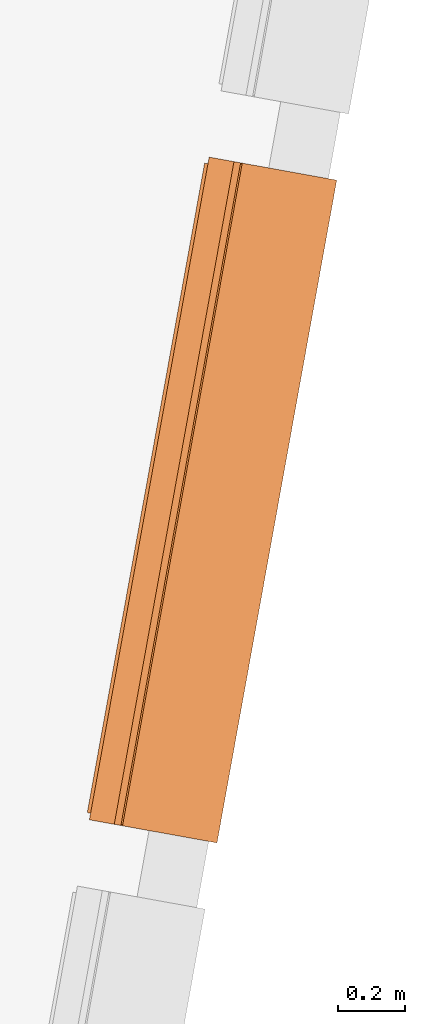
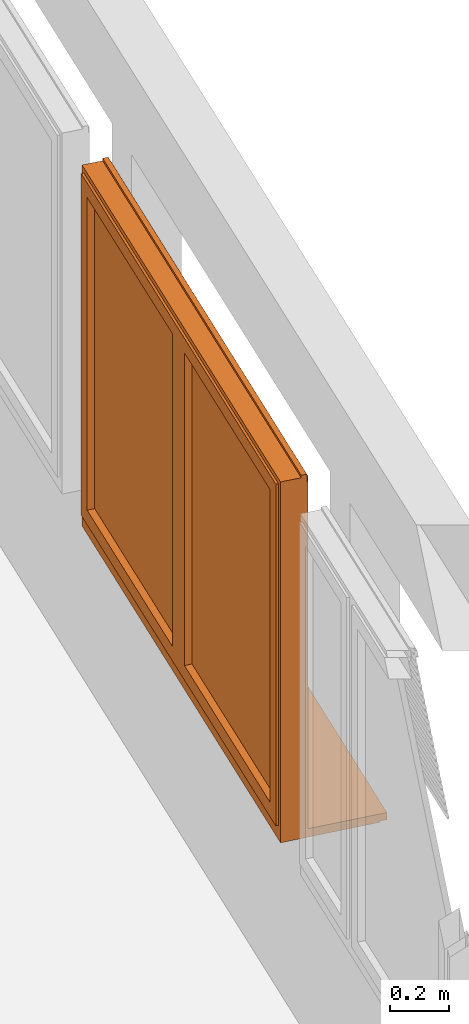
# One storey, part 38 of 52: 1 proxy.
"""IFC2X3 building model written with IfcOpenShell, lengths in metres."""

from ifc_helpers import new_model, entity, si_unit, converted_unit, derived_unit, money_unit, direction, frame, origin_with_axes, place, context, subcontext, project, spatial, open_shell, faceted_brep, surface_model, material, type_object, element, save


model = new_model("IFC2X3")

# Units and contexts
model_context = context("Model", 3, precision=1e-05, world=origin_with_axes(), true_north=direction((0.0, 1.0)))
body_context = subcontext(model_context, "Body", "Model", "MODEL_VIEW")
ifc_project = project(units=[si_unit("LENGTHUNIT", "METRE"), si_unit("AREAUNIT", "SQUARE_METRE"), si_unit("VOLUMEUNIT", "CUBIC_METRE"), converted_unit("PLANEANGLEUNIT", "DEGREE", entity("IfcPlaneAngleMeasure", 0.0174532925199), si_unit("PLANEANGLEUNIT", "RADIAN"), dimensions=[0, 0, 0, 0, 0, 0, 0]), money_unit("CHF"), converted_unit("TIMEUNIT", "Year", entity("IfcTimeMeasure", 31556926.0), si_unit("TIMEUNIT", "SECOND"), dimensions=[0, 0, 1, 0, 0, 0, 0]), si_unit("MASSUNIT", "GRAM", prefix="KILO"), si_unit("THERMODYNAMICTEMPERATUREUNIT", "DEGREE_CELSIUS"), si_unit("LUMINOUSINTENSITYUNIT", "LUMEN"), si_unit("ENERGYUNIT", "JOULE", prefix="MEGA"), derived_unit("THERMALCONDUCTANCEUNIT", [(si_unit("POWERUNIT", "WATT"), 1), (si_unit("LENGTHUNIT", "METRE"), -1), (si_unit("THERMODYNAMICTEMPERATUREUNIT", "KELVIN"), -1)]), derived_unit("SPECIFICHEATCAPACITYUNIT", [(si_unit("ENERGYUNIT", "JOULE"), 1), (si_unit("MASSUNIT", "GRAM", prefix="KILO"), -1), (si_unit("THERMODYNAMICTEMPERATUREUNIT", "KELVIN"), -1)]), derived_unit("MASSDENSITYUNIT", [(si_unit("MASSUNIT", "GRAM", prefix="KILO"), 1), (si_unit("VOLUMEUNIT", "CUBIC_METRE"), -1)])], contexts=[model_context])

# Site, building, storey
site_placement = place(None, frame((0.0, 0.0, 0.0), z_axis=(0.0, 0.0, 1.0), x_axis=(-0.177771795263, -0.984071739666, 0.0)))
site = spatial("IfcSite", under=ifc_project, at=site_placement, Name="Site", CompositionType="ELEMENT")
building_placement = place(site_placement, origin_with_axes())
building = spatial("IfcBuilding", under=site, at=building_placement, Name="Bâtiment", CompositionType="ELEMENT")
storey_placement = place(building_placement, frame((0.0, 0.0, 3.2), z_axis=(0.0, 0.0, 1.0), x_axis=(1.0, 0.0, 0.0)))
storey = spatial("IfcBuildingStorey", under=building, at=storey_placement, Name="R+1", CompositionType="ELEMENT", Elevation=3.2)

# Proxy
ifc_material = material(Name="Matériau de construction IFC")
building_element_proxy_type = type_object("IfcBuildingElementProxyType", Name="Fenêtre double 21", PredefinedType="NOTDEFINED")
proxy_placement = place(storey_placement, frame((153.119841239, -148.117150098, 1.0), z_axis=(0.0, 0.0, 1.0), x_axis=(-1.0, 0.0, 0.0)))
element("IfcBuildingElementProxy", 1, at=proxy_placement, inside=storey, type_object=building_element_proxy_type, material=ifc_material, Name="Fen classe-200", context=body_context, shape_type="SurfaceModel", body=[
    faceted_brep([(2.0, 0.285, 0.005), (2.0, 0.285, 0.035), (2.0, 0.0, 0.035), (2.0, 0.0, 0.005), (0.0, 0.285, 0.005), (0.0, 0.285, 0.035), (0.0, 0.0, 0.035), (0.0, -0.025, 0.035), (2.0, -0.025, 0.035), (2.0, -0.025, 0.005), (0.0, -0.025, 0.005), (0.0, 0.0, 0.005)], [[[0, 1, 2, 3]], [[4, 5, 1, 0]], [[1, 5, 6, 7, 8, 2]], [[3, 2, 8, 9]], [[0, 3, 9, 10, 11, 4]], [[11, 6, 5, 4]], [[10, 7, 6, 11]], [[9, 8, 7, 10]]]),
    faceted_brep([(2.0, 0.285, 0.0), (2.0, 0.285, 0.005), (2.0, 0.0, 0.005), (2.0, 0.0, 0.0), (0.0, 0.285, 0.0), (0.0, 0.285, 0.005), (0.0, 0.0, 0.005), (0.0, 0.0, 0.0)], [[[0, 1, 2, 3]], [[4, 5, 1, 0]], [[1, 5, 6, 2]], [[3, 2, 6, 7]], [[0, 3, 7, 4]], [[7, 6, 5, 4]]]),
    faceted_brep([(2.0, 0.285, 1.48), (2.0, 0.265, 1.48), (1.997, 0.265, 1.48), (1.997, 0.285, 1.48), (2.0, 0.285, 1.51), (2.0, 0.265, 1.51), (1.997, 0.265, 1.51), (1.997, 0.285, 1.51)], [[[0, 1, 2, 3]], [[0, 4, 5, 1]], [[1, 5, 6, 2]], [[3, 2, 6, 7]], [[4, 0, 3, 7]], [[5, 4, 7, 6]]]),
    faceted_brep([(0.00299999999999, 0.285, 1.48), (0.00299999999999, 0.265, 1.48), (0.0, 0.265, 1.48), (0.0, 0.285, 1.48), (0.00299999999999, 0.285, 1.51), (0.00299999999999, 0.265, 1.51), (0.0, 0.265, 1.51), (0.0, 0.285, 1.51)], [[[0, 1, 2, 3]], [[0, 4, 5, 1]], [[1, 5, 6, 2]], [[3, 2, 6, 7]], [[4, 0, 3, 7]], [[5, 4, 7, 6]]]),
    faceted_brep([(1.997, 0.285, 1.48), (1.997, 0.282, 1.48), (0.00299999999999, 0.282, 1.48), (0.00299999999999, 0.285, 1.48), (1.997, 0.285, 1.51), (1.997, 0.265, 1.51), (1.997, 0.265, 1.48), (1.997, 0.268, 1.48), (1.997, 0.268, 1.5), (1.997, 0.26, 1.5), (1.997, 0.26, 1.48), (1.997, 0.263, 1.48), (1.997, 0.263, 1.503), (1.997, 0.268, 1.503), (1.997, 0.268, 1.507), (1.997, 0.282, 1.507), (1.997, 0.282, 1.5), (0.00299999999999, 0.282, 1.5), (0.00299999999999, 0.282, 1.507), (0.00299999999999, 0.268, 1.507), (0.00299999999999, 0.268, 1.503), (0.00299999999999, 0.263, 1.503), (0.00299999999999, 0.263, 1.48), (0.00299999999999, 0.26, 1.48), (0.00299999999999, 0.26, 1.5), (0.00299999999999, 0.268, 1.5), (0.00299999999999, 0.268, 1.48), (0.00299999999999, 0.265, 1.48), (0.00299999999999, 0.265, 1.51), (0.00299999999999, 0.285, 1.51)], [[[0, 1, 2, 3]], [[0, 4, 5, 6, 7, 8, 9, 10, 11, 12, 13, 14, 15, 16, 1]], [[1, 16, 17, 2]], [[3, 2, 17, 18, 19, 20, 21, 22, 23, 24, 25, 26, 27, 28, 29]], [[4, 0, 3, 29]], [[5, 4, 29, 28]], [[6, 5, 28, 27]], [[7, 6, 27, 26]], [[8, 7, 26, 25]], [[9, 8, 25, 24]], [[10, 9, 24, 23]], [[11, 10, 23, 22]], [[12, 11, 22, 21]], [[13, 12, 21, 20]], [[14, 13, 20, 19]], [[15, 14, 19, 18]], [[16, 15, 18, 17]]]),
    faceted_brep([(0.0, 0.285, 0.03), (0.0, 0.26, 0.03), (0.0, 0.26, 1.48), (0.0, 0.285, 1.48), (0.025, 0.285, 0.03), (0.025, 0.282, 0.03), (0.00299999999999, 0.282, 0.03), (0.00299999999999, 0.263, 0.03), (0.025, 0.263, 0.03), (0.025, 0.26, 0.03), (0.025, 0.26, 1.48), (0.025, 0.263, 1.48), (0.00299999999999, 0.263, 1.48), (0.00299999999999, 0.282, 1.48), (0.025, 0.282, 1.48), (0.025, 0.285, 1.48)], [[[0, 1, 2, 3]], [[0, 4, 5, 6, 7, 8, 9, 1]], [[1, 9, 10, 2]], [[3, 2, 10, 11, 12, 13, 14, 15]], [[4, 0, 3, 15]], [[5, 4, 15, 14]], [[6, 5, 14, 13]], [[7, 6, 13, 12]], [[8, 7, 12, 11]], [[9, 8, 11, 10]]]),
    faceted_brep([(2.0, 0.285, 0.03), (2.0, 0.285, 1.48), (2.0, 0.26, 1.48), (2.0, 0.26, 0.03), (1.975, 0.285, 0.03), (1.975, 0.285, 1.48), (1.975, 0.282, 1.48), (1.997, 0.282, 1.48), (1.997, 0.263, 1.48), (1.975, 0.263, 1.48), (1.975, 0.26, 1.48), (1.975, 0.26, 0.03), (1.975, 0.263, 0.03), (1.997, 0.263, 0.03), (1.997, 0.282, 0.03), (1.975, 0.282, 0.03)], [[[0, 1, 2, 3]], [[4, 5, 1, 0]], [[1, 5, 6, 7, 8, 9, 10, 2]], [[3, 2, 10, 11]], [[0, 3, 11, 12, 13, 14, 15, 4]], [[15, 6, 5, 4]], [[14, 7, 6, 15]], [[13, 8, 7, 14]], [[12, 9, 8, 13]], [[11, 10, 9, 12]]]),
    faceted_brep([(0.00299999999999, 0.27375, 1.505), (1.997, 0.27375, 1.505), (1.997, 0.273333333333, 1.50333333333), (0.00299999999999, 0.273333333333, 1.50333333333), (0.00299999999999, 0.26875, 1.505), (1.997, 0.26875, 1.505), (1.997, 0.268333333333, 1.50333333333), (1.997, 0.268333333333, 1.49666666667), (1.997, 0.27, 1.49), (1.997, 0.275, 1.49), (1.997, 0.273333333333, 1.49666666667), (0.00299999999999, 0.273333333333, 1.49666666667), (0.00299999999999, 0.275, 1.49), (0.00299999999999, 0.27, 1.49), (0.00299999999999, 0.268333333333, 1.49666666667), (0.00299999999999, 0.268333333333, 1.50333333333)], [[[0, 1, 2, 3]], [[1, 0, 4, 5]], [[1, 5, 6, 7, 8, 9, 10, 2]], [[2, 10, 11, 3]], [[4, 0, 3, 11, 12, 13, 14, 15]], [[6, 5, 4, 15]], [[7, 6, 15, 14]], [[8, 7, 14, 13]], [[9, 8, 13, 12]], [[10, 9, 12, 11]]]),
    faceted_brep([(1.997, 0.275, 1.49), (1.997, 0.273333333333, 1.48333333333), (0.00299999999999, 0.273333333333, 1.48333333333), (0.00299999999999, 0.275, 1.49), (1.997, 0.27, 1.49), (1.997, 0.268333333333, 1.48333333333), (1.997, 0.268333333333, 1.47666666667), (1.997, 0.27, 1.47), (1.997, 0.275, 1.47), (1.997, 0.273333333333, 1.47666666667), (0.00299999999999, 0.273333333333, 1.47666666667), (0.00299999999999, 0.275, 1.47), (0.00299999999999, 0.27, 1.47), (0.00299999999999, 0.268333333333, 1.47666666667), (0.00299999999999, 0.268333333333, 1.48333333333), (0.00299999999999, 0.27, 1.49)], [[[0, 1, 2, 3]], [[0, 4, 5, 6, 7, 8, 9, 1]], [[1, 9, 10, 2]], [[3, 2, 10, 11, 12, 13, 14, 15]], [[4, 0, 3, 15]], [[5, 4, 15, 14]], [[6, 5, 14, 13]], [[7, 6, 13, 12]], [[8, 7, 12, 11]], [[9, 8, 11, 10]]]),
    faceted_brep([(1.997, 0.275, 1.47), (1.997, 0.273333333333, 1.46333333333), (0.00299999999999, 0.273333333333, 1.46333333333), (0.00299999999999, 0.275, 1.47), (1.997, 0.27, 1.47), (1.997, 0.268333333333, 1.46333333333), (1.997, 0.268333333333, 1.45666666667), (1.997, 0.27, 1.45), (1.997, 0.275, 1.45), (1.997, 0.273333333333, 1.45666666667), (0.00299999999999, 0.273333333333, 1.45666666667), (0.00299999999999, 0.275, 1.45), (0.00299999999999, 0.27, 1.45), (0.00299999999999, 0.268333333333, 1.45666666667), (0.00299999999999, 0.268333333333, 1.46333333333), (0.00299999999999, 0.27, 1.47)], [[[0, 1, 2, 3]], [[0, 4, 5, 6, 7, 8, 9, 1]], [[1, 9, 10, 2]], [[3, 2, 10, 11, 12, 13, 14, 15]], [[4, 0, 3, 15]], [[5, 4, 15, 14]], [[6, 5, 14, 13]], [[7, 6, 13, 12]], [[8, 7, 12, 11]], [[9, 8, 11, 10]]]),
    faceted_brep([(1.997, 0.275, 1.45), (1.997, 0.273333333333, 1.44333333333), (0.00299999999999, 0.273333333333, 1.44333333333), (0.00299999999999, 0.275, 1.45), (1.997, 0.27, 1.45), (1.997, 0.268333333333, 1.44333333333), (1.997, 0.268333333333, 1.43666666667), (1.997, 0.27, 1.43), (1.997, 0.275, 1.43), (1.997, 0.273333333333, 1.43666666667), (0.00299999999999, 0.273333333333, 1.43666666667), (0.00299999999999, 0.275, 1.43), (0.00299999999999, 0.27, 1.43), (0.00299999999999, 0.268333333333, 1.43666666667), (0.00299999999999, 0.268333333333, 1.44333333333), (0.00299999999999, 0.27, 1.45)], [[[0, 1, 2, 3]], [[0, 4, 5, 6, 7, 8, 9, 1]], [[1, 9, 10, 2]], [[3, 2, 10, 11, 12, 13, 14, 15]], [[4, 0, 3, 15]], [[5, 4, 15, 14]], [[6, 5, 14, 13]], [[7, 6, 13, 12]], [[8, 7, 12, 11]], [[9, 8, 11, 10]]]),
    faceted_brep([(1.997, 0.275, 1.43), (1.997, 0.273333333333, 1.42333333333), (0.00299999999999, 0.273333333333, 1.42333333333), (0.00299999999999, 0.275, 1.43), (1.997, 0.27, 1.43), (1.997, 0.268333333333, 1.42333333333), (1.997, 0.268333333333, 1.41666666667), (1.997, 0.27, 1.41), (1.997, 0.275, 1.41), (1.997, 0.273333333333, 1.41666666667), (0.00299999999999, 0.273333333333, 1.41666666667), (0.00299999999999, 0.275, 1.41), (0.00299999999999, 0.27, 1.41), (0.00299999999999, 0.268333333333, 1.41666666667), (0.00299999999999, 0.268333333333, 1.42333333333), (0.00299999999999, 0.27, 1.43)], [[[0, 1, 2, 3]], [[0, 4, 5, 6, 7, 8, 9, 1]], [[1, 9, 10, 2]], [[3, 2, 10, 11, 12, 13, 14, 15]], [[4, 0, 3, 15]], [[5, 4, 15, 14]], [[6, 5, 14, 13]], [[7, 6, 13, 12]], [[8, 7, 12, 11]], [[9, 8, 11, 10]]]),
    faceted_brep([(1.997, 0.275, 1.41), (1.997, 0.273333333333, 1.40333333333), (0.00299999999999, 0.273333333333, 1.40333333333), (0.00299999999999, 0.275, 1.41), (1.997, 0.27, 1.41), (1.997, 0.268333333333, 1.40333333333), (1.997, 0.268333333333, 1.39666666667), (1.997, 0.27, 1.39), (1.997, 0.275, 1.39), (1.997, 0.273333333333, 1.39666666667), (0.00299999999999, 0.273333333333, 1.39666666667), (0.00299999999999, 0.275, 1.39), (0.00299999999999, 0.27, 1.39), (0.00299999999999, 0.268333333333, 1.39666666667), (0.00299999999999, 0.268333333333, 1.40333333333), (0.00299999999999, 0.27, 1.41)], [[[0, 1, 2, 3]], [[0, 4, 5, 6, 7, 8, 9, 1]], [[1, 9, 10, 2]], [[3, 2, 10, 11, 12, 13, 14, 15]], [[4, 0, 3, 15]], [[5, 4, 15, 14]], [[6, 5, 14, 13]], [[7, 6, 13, 12]], [[8, 7, 12, 11]], [[9, 8, 11, 10]]]),
    faceted_brep([(1.997, 0.275, 1.39), (1.997, 0.273333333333, 1.38333333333), (0.00299999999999, 0.273333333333, 1.38333333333), (0.00299999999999, 0.275, 1.39), (1.997, 0.27, 1.39), (1.997, 0.268333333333, 1.38333333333), (1.997, 0.268333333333, 1.37666666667), (1.997, 0.27, 1.37), (1.997, 0.275, 1.37), (1.997, 0.273333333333, 1.37666666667), (0.00299999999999, 0.273333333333, 1.37666666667), (0.00299999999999, 0.275, 1.37), (0.00299999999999, 0.27, 1.37), (0.00299999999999, 0.268333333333, 1.37666666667), (0.00299999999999, 0.268333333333, 1.38333333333), (0.00299999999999, 0.27, 1.39)], [[[0, 1, 2, 3]], [[0, 4, 5, 6, 7, 8, 9, 1]], [[1, 9, 10, 2]], [[3, 2, 10, 11, 12, 13, 14, 15]], [[4, 0, 3, 15]], [[5, 4, 15, 14]], [[6, 5, 14, 13]], [[7, 6, 13, 12]], [[8, 7, 12, 11]], [[9, 8, 11, 10]]]),
    faceted_brep([(1.997, 0.275, 1.37), (1.997, 0.273333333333, 1.36333333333), (0.00299999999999, 0.273333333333, 1.36333333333), (0.00299999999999, 0.275, 1.37), (1.997, 0.27, 1.37), (1.997, 0.268333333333, 1.36333333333), (1.997, 0.268333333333, 1.35666666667), (1.997, 0.27, 1.35), (1.997, 0.275, 1.35), (1.997, 0.273333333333, 1.35666666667), (0.00299999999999, 0.273333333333, 1.35666666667), (0.00299999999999, 0.275, 1.35), (0.00299999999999, 0.27, 1.35), (0.00299999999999, 0.268333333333, 1.35666666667), (0.00299999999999, 0.268333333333, 1.36333333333), (0.00299999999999, 0.27, 1.37)], [[[0, 1, 2, 3]], [[0, 4, 5, 6, 7, 8, 9, 1]], [[1, 9, 10, 2]], [[3, 2, 10, 11, 12, 13, 14, 15]], [[4, 0, 3, 15]], [[5, 4, 15, 14]], [[6, 5, 14, 13]], [[7, 6, 13, 12]], [[8, 7, 12, 11]], [[9, 8, 11, 10]]]),
    faceted_brep([(1.997, 0.275, 1.35), (1.997, 0.273333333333, 1.34333333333), (0.00299999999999, 0.273333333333, 1.34333333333), (0.00299999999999, 0.275, 1.35), (1.997, 0.27, 1.35), (1.997, 0.268333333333, 1.34333333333), (1.997, 0.268333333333, 1.33666666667), (1.997, 0.27, 1.33), (1.997, 0.275, 1.33), (1.997, 0.273333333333, 1.33666666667), (0.00299999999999, 0.273333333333, 1.33666666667), (0.00299999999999, 0.275, 1.33), (0.00299999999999, 0.27, 1.33), (0.00299999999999, 0.268333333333, 1.33666666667), (0.00299999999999, 0.268333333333, 1.34333333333), (0.00299999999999, 0.27, 1.35)], [[[0, 1, 2, 3]], [[0, 4, 5, 6, 7, 8, 9, 1]], [[1, 9, 10, 2]], [[3, 2, 10, 11, 12, 13, 14, 15]], [[4, 0, 3, 15]], [[5, 4, 15, 14]], [[6, 5, 14, 13]], [[7, 6, 13, 12]], [[8, 7, 12, 11]], [[9, 8, 11, 10]]]),
    faceted_brep([(1.997, 0.275, 1.33), (1.997, 0.273333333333, 1.32333333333), (0.00299999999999, 0.273333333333, 1.32333333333), (0.00299999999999, 0.275, 1.33), (1.997, 0.27, 1.33), (1.997, 0.268333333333, 1.32333333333), (1.997, 0.268333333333, 1.31666666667), (1.997, 0.27, 1.31), (1.997, 0.275, 1.31), (1.997, 0.273333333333, 1.31666666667), (0.00299999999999, 0.273333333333, 1.31666666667), (0.00299999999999, 0.275, 1.31), (0.00299999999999, 0.27, 1.31), (0.00299999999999, 0.268333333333, 1.31666666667), (0.00299999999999, 0.268333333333, 1.32333333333), (0.00299999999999, 0.27, 1.33)], [[[0, 1, 2, 3]], [[0, 4, 5, 6, 7, 8, 9, 1]], [[1, 9, 10, 2]], [[3, 2, 10, 11, 12, 13, 14, 15]], [[4, 0, 3, 15]], [[5, 4, 15, 14]], [[6, 5, 14, 13]], [[7, 6, 13, 12]], [[8, 7, 12, 11]], [[9, 8, 11, 10]]]),
    faceted_brep([(1.997, 0.275, 1.31), (1.997, 0.273333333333, 1.30333333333), (0.00299999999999, 0.273333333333, 1.30333333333), (0.00299999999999, 0.275, 1.31), (1.997, 0.27, 1.31), (1.997, 0.268333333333, 1.30333333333), (1.997, 0.268333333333, 1.29666666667), (1.997, 0.27, 1.29), (1.997, 0.275, 1.29), (1.997, 0.273333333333, 1.29666666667), (0.00299999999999, 0.273333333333, 1.29666666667), (0.00299999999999, 0.275, 1.29), (0.00299999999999, 0.27, 1.29), (0.00299999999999, 0.268333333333, 1.29666666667), (0.00299999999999, 0.268333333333, 1.30333333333), (0.00299999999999, 0.27, 1.31)], [[[0, 1, 2, 3]], [[0, 4, 5, 6, 7, 8, 9, 1]], [[1, 9, 10, 2]], [[3, 2, 10, 11, 12, 13, 14, 15]], [[4, 0, 3, 15]], [[5, 4, 15, 14]], [[6, 5, 14, 13]], [[7, 6, 13, 12]], [[8, 7, 12, 11]], [[9, 8, 11, 10]]]),
    faceted_brep([(1.997, 0.275, 1.29), (1.997, 0.273333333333, 1.28333333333), (0.00299999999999, 0.273333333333, 1.28333333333), (0.00299999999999, 0.275, 1.29), (1.997, 0.27, 1.29), (1.997, 0.268333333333, 1.28333333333), (1.997, 0.268333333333, 1.27666666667), (1.997, 0.27, 1.27), (1.997, 0.275, 1.27), (1.997, 0.273333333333, 1.27666666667), (0.00299999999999, 0.273333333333, 1.27666666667), (0.00299999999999, 0.275, 1.27), (0.00299999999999, 0.27, 1.27), (0.00299999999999, 0.268333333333, 1.27666666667), (0.00299999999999, 0.268333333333, 1.28333333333), (0.00299999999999, 0.27, 1.29)], [[[0, 1, 2, 3]], [[0, 4, 5, 6, 7, 8, 9, 1]], [[1, 9, 10, 2]], [[3, 2, 10, 11, 12, 13, 14, 15]], [[4, 0, 3, 15]], [[5, 4, 15, 14]], [[6, 5, 14, 13]], [[7, 6, 13, 12]], [[8, 7, 12, 11]], [[9, 8, 11, 10]]]),
    faceted_brep([(1.997, 0.275, 1.27), (1.997, 0.273333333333, 1.26333333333), (0.00299999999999, 0.273333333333, 1.26333333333), (0.00299999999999, 0.275, 1.27), (1.997, 0.27, 1.27), (1.997, 0.268333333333, 1.26333333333), (1.997, 0.268333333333, 1.25666666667), (1.997, 0.27, 1.25), (1.997, 0.275, 1.25), (1.997, 0.273333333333, 1.25666666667), (0.00299999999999, 0.273333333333, 1.25666666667), (0.00299999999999, 0.275, 1.25), (0.00299999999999, 0.27, 1.25), (0.00299999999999, 0.268333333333, 1.25666666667), (0.00299999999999, 0.268333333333, 1.26333333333), (0.00299999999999, 0.27, 1.27)], [[[0, 1, 2, 3]], [[0, 4, 5, 6, 7, 8, 9, 1]], [[1, 9, 10, 2]], [[3, 2, 10, 11, 12, 13, 14, 15]], [[4, 0, 3, 15]], [[5, 4, 15, 14]], [[6, 5, 14, 13]], [[7, 6, 13, 12]], [[8, 7, 12, 11]], [[9, 8, 11, 10]]]),
    faceted_brep([(1.997, 0.275, 1.25), (1.997, 0.273333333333, 1.24333333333), (0.00299999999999, 0.273333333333, 1.24333333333), (0.00299999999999, 0.275, 1.25), (1.997, 0.27, 1.25), (1.997, 0.268333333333, 1.24333333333), (1.997, 0.268333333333, 1.23666666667), (1.997, 0.27, 1.23), (1.997, 0.275, 1.23), (1.997, 0.273333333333, 1.23666666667), (0.00299999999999, 0.273333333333, 1.23666666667), (0.00299999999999, 0.275, 1.23), (0.00299999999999, 0.27, 1.23), (0.00299999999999, 0.268333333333, 1.23666666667), (0.00299999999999, 0.268333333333, 1.24333333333), (0.00299999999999, 0.27, 1.25)], [[[0, 1, 2, 3]], [[0, 4, 5, 6, 7, 8, 9, 1]], [[1, 9, 10, 2]], [[3, 2, 10, 11, 12, 13, 14, 15]], [[4, 0, 3, 15]], [[5, 4, 15, 14]], [[6, 5, 14, 13]], [[7, 6, 13, 12]], [[8, 7, 12, 11]], [[9, 8, 11, 10]]]),
    faceted_brep([(1.997, 0.275, 1.23), (1.997, 0.273333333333, 1.22333333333), (0.00299999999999, 0.273333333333, 1.22333333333), (0.00299999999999, 0.275, 1.23), (1.997, 0.27, 1.23), (1.997, 0.268333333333, 1.22333333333), (1.997, 0.268333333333, 1.21666666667), (1.997, 0.27, 1.21), (1.997, 0.275, 1.21), (1.997, 0.273333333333, 1.21666666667), (0.00299999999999, 0.273333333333, 1.21666666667), (0.00299999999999, 0.275, 1.21), (0.00299999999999, 0.27, 1.21), (0.00299999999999, 0.268333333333, 1.21666666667), (0.00299999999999, 0.268333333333, 1.22333333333), (0.00299999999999, 0.27, 1.23)], [[[0, 1, 2, 3]], [[0, 4, 5, 6, 7, 8, 9, 1]], [[1, 9, 10, 2]], [[3, 2, 10, 11, 12, 13, 14, 15]], [[4, 0, 3, 15]], [[5, 4, 15, 14]], [[6, 5, 14, 13]], [[7, 6, 13, 12]], [[8, 7, 12, 11]], [[9, 8, 11, 10]]]),
    faceted_brep([(1.997, 0.275, 1.21), (1.997, 0.273333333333, 1.20333333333), (0.00299999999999, 0.273333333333, 1.20333333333), (0.00299999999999, 0.275, 1.21), (1.997, 0.27, 1.21), (1.997, 0.268333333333, 1.20333333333), (1.997, 0.268333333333, 1.19666666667), (1.997, 0.27, 1.19), (1.997, 0.275, 1.19), (1.997, 0.273333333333, 1.19666666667), (0.00299999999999, 0.273333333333, 1.19666666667), (0.00299999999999, 0.275, 1.19), (0.00299999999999, 0.27, 1.19), (0.00299999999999, 0.268333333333, 1.19666666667), (0.00299999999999, 0.268333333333, 1.20333333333), (0.00299999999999, 0.27, 1.21)], [[[0, 1, 2, 3]], [[0, 4, 5, 6, 7, 8, 9, 1]], [[1, 9, 10, 2]], [[3, 2, 10, 11, 12, 13, 14, 15]], [[4, 0, 3, 15]], [[5, 4, 15, 14]], [[6, 5, 14, 13]], [[7, 6, 13, 12]], [[8, 7, 12, 11]], [[9, 8, 11, 10]]]),
    faceted_brep([(1.997, 0.275, 1.19), (1.997, 0.273333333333, 1.18333333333), (0.00299999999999, 0.273333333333, 1.18333333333), (0.00299999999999, 0.275, 1.19), (1.997, 0.27, 1.19), (1.997, 0.268333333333, 1.18333333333), (1.997, 0.268333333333, 1.17666666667), (1.997, 0.27, 1.17), (1.997, 0.275, 1.17), (1.997, 0.273333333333, 1.17666666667), (0.00299999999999, 0.273333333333, 1.17666666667), (0.00299999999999, 0.275, 1.17), (0.00299999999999, 0.27, 1.17), (0.00299999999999, 0.268333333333, 1.17666666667), (0.00299999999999, 0.268333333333, 1.18333333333), (0.00299999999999, 0.27, 1.19)], [[[0, 1, 2, 3]], [[0, 4, 5, 6, 7, 8, 9, 1]], [[1, 9, 10, 2]], [[3, 2, 10, 11, 12, 13, 14, 15]], [[4, 0, 3, 15]], [[5, 4, 15, 14]], [[6, 5, 14, 13]], [[7, 6, 13, 12]], [[8, 7, 12, 11]], [[9, 8, 11, 10]]]),
    faceted_brep([(1.997, 0.275, 1.17), (1.997, 0.273333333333, 1.16333333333), (0.00299999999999, 0.273333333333, 1.16333333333), (0.00299999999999, 0.275, 1.17), (1.997, 0.27, 1.17), (1.997, 0.268333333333, 1.16333333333), (1.997, 0.268333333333, 1.15666666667), (1.997, 0.27, 1.15), (1.997, 0.275, 1.15), (1.997, 0.273333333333, 1.15666666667), (0.00299999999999, 0.273333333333, 1.15666666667), (0.00299999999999, 0.275, 1.15), (0.00299999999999, 0.27, 1.15), (0.00299999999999, 0.268333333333, 1.15666666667), (0.00299999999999, 0.268333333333, 1.16333333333), (0.00299999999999, 0.27, 1.17)], [[[0, 1, 2, 3]], [[0, 4, 5, 6, 7, 8, 9, 1]], [[1, 9, 10, 2]], [[3, 2, 10, 11, 12, 13, 14, 15]], [[4, 0, 3, 15]], [[5, 4, 15, 14]], [[6, 5, 14, 13]], [[7, 6, 13, 12]], [[8, 7, 12, 11]], [[9, 8, 11, 10]]]),
    faceted_brep([(1.997, 0.275, 1.15), (1.997, 0.273333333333, 1.14333333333), (0.00299999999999, 0.273333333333, 1.14333333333), (0.00299999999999, 0.275, 1.15), (1.997, 0.27, 1.15), (1.997, 0.268333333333, 1.14333333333), (1.997, 0.268333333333, 1.13666666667), (1.997, 0.27, 1.13), (1.997, 0.275, 1.13), (1.997, 0.273333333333, 1.13666666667), (0.00299999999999, 0.273333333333, 1.13666666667), (0.00299999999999, 0.275, 1.13), (0.00299999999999, 0.27, 1.13), (0.00299999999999, 0.268333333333, 1.13666666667), (0.00299999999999, 0.268333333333, 1.14333333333), (0.00299999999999, 0.27, 1.15)], [[[0, 1, 2, 3]], [[0, 4, 5, 6, 7, 8, 9, 1]], [[1, 9, 10, 2]], [[3, 2, 10, 11, 12, 13, 14, 15]], [[4, 0, 3, 15]], [[5, 4, 15, 14]], [[6, 5, 14, 13]], [[7, 6, 13, 12]], [[8, 7, 12, 11]], [[9, 8, 11, 10]]]),
    faceted_brep([(1.997, 0.275, 1.13), (1.997, 0.273333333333, 1.12333333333), (0.00299999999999, 0.273333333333, 1.12333333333), (0.00299999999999, 0.275, 1.13), (1.997, 0.27, 1.13), (1.997, 0.268333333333, 1.12333333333), (1.997, 0.268333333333, 1.11666666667), (1.997, 0.27, 1.11), (1.997, 0.275, 1.11), (1.997, 0.273333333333, 1.11666666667), (0.00299999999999, 0.273333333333, 1.11666666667), (0.00299999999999, 0.275, 1.11), (0.00299999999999, 0.27, 1.11), (0.00299999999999, 0.268333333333, 1.11666666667), (0.00299999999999, 0.268333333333, 1.12333333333), (0.00299999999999, 0.27, 1.13)], [[[0, 1, 2, 3]], [[0, 4, 5, 6, 7, 8, 9, 1]], [[1, 9, 10, 2]], [[3, 2, 10, 11, 12, 13, 14, 15]], [[4, 0, 3, 15]], [[5, 4, 15, 14]], [[6, 5, 14, 13]], [[7, 6, 13, 12]], [[8, 7, 12, 11]], [[9, 8, 11, 10]]]),
    faceted_brep([(1.997, 0.275, 1.11), (1.997, 0.273333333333, 1.10333333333), (0.00299999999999, 0.273333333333, 1.10333333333), (0.00299999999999, 0.275, 1.11), (1.997, 0.27, 1.11), (1.997, 0.268333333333, 1.10333333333), (1.997, 0.268333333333, 1.09666666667), (1.997, 0.27, 1.09), (1.997, 0.275, 1.09), (1.997, 0.273333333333, 1.09666666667), (0.00299999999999, 0.273333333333, 1.09666666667), (0.00299999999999, 0.275, 1.09), (0.00299999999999, 0.27, 1.09), (0.00299999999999, 0.268333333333, 1.09666666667), (0.00299999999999, 0.268333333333, 1.10333333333), (0.00299999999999, 0.27, 1.11)], [[[0, 1, 2, 3]], [[0, 4, 5, 6, 7, 8, 9, 1]], [[1, 9, 10, 2]], [[3, 2, 10, 11, 12, 13, 14, 15]], [[4, 0, 3, 15]], [[5, 4, 15, 14]], [[6, 5, 14, 13]], [[7, 6, 13, 12]], [[8, 7, 12, 11]], [[9, 8, 11, 10]]]),
    faceted_brep([(1.997, 0.275, 1.09), (1.997, 0.273333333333, 1.08333333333), (0.00299999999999, 0.273333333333, 1.08333333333), (0.00299999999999, 0.275, 1.09), (1.997, 0.27, 1.09), (1.997, 0.268333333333, 1.08333333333), (1.997, 0.268333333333, 1.07666666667), (1.997, 0.27, 1.07), (1.997, 0.275, 1.07), (1.997, 0.273333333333, 1.07666666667), (0.00299999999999, 0.273333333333, 1.07666666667), (0.00299999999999, 0.275, 1.07), (0.00299999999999, 0.27, 1.07), (0.00299999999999, 0.268333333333, 1.07666666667), (0.00299999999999, 0.268333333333, 1.08333333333), (0.00299999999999, 0.27, 1.09)], [[[0, 1, 2, 3]], [[0, 4, 5, 6, 7, 8, 9, 1]], [[1, 9, 10, 2]], [[3, 2, 10, 11, 12, 13, 14, 15]], [[4, 0, 3, 15]], [[5, 4, 15, 14]], [[6, 5, 14, 13]], [[7, 6, 13, 12]], [[8, 7, 12, 11]], [[9, 8, 11, 10]]]),
    faceted_brep([(1.997, 0.275, 1.07), (1.997, 0.273333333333, 1.06333333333), (0.00299999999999, 0.273333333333, 1.06333333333), (0.00299999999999, 0.275, 1.07), (1.997, 0.27, 1.07), (1.997, 0.268333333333, 1.06333333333), (1.997, 0.268333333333, 1.05666666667), (1.997, 0.27, 1.05), (1.997, 0.275, 1.05), (1.997, 0.273333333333, 1.05666666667), (0.00299999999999, 0.273333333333, 1.05666666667), (0.00299999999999, 0.275, 1.05), (0.00299999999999, 0.27, 1.05), (0.00299999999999, 0.268333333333, 1.05666666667), (0.00299999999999, 0.268333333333, 1.06333333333), (0.00299999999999, 0.27, 1.07)], [[[0, 1, 2, 3]], [[0, 4, 5, 6, 7, 8, 9, 1]], [[1, 9, 10, 2]], [[3, 2, 10, 11, 12, 13, 14, 15]], [[4, 0, 3, 15]], [[5, 4, 15, 14]], [[6, 5, 14, 13]], [[7, 6, 13, 12]], [[8, 7, 12, 11]], [[9, 8, 11, 10]]]),
    faceted_brep([(1.997, 0.275, 1.05), (1.997, 0.273333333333, 1.04333333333), (0.00299999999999, 0.273333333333, 1.04333333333), (0.00299999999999, 0.275, 1.05), (1.997, 0.27, 1.05), (1.997, 0.268333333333, 1.04333333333), (1.997, 0.268333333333, 1.03666666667), (1.997, 0.27, 1.03), (1.997, 0.275, 1.03), (1.997, 0.273333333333, 1.03666666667), (0.00299999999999, 0.273333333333, 1.03666666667), (0.00299999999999, 0.275, 1.03), (0.00299999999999, 0.27, 1.03), (0.00299999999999, 0.268333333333, 1.03666666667), (0.00299999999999, 0.268333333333, 1.04333333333), (0.00299999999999, 0.27, 1.05)], [[[0, 1, 2, 3]], [[0, 4, 5, 6, 7, 8, 9, 1]], [[1, 9, 10, 2]], [[3, 2, 10, 11, 12, 13, 14, 15]], [[4, 0, 3, 15]], [[5, 4, 15, 14]], [[6, 5, 14, 13]], [[7, 6, 13, 12]], [[8, 7, 12, 11]], [[9, 8, 11, 10]]]),
    faceted_brep([(1.98, 0.36, 1.47), (1.98, 0.295, 1.47), (1.97, 0.295, 1.47), (1.97, 0.285, 1.47), (2.0, 0.285, 1.47), (2.0, 0.36, 1.47), (1.98, 0.36, 0.07), (1.98, 0.295, 0.07), (1.97, 0.295, 0.07), (1.97, 0.285, 0.07), (2.0, 0.285, 0.07), (2.0, 0.36, 0.07)], [[[0, 1, 2, 3, 4, 5]], [[1, 0, 6, 7]], [[8, 2, 1, 7]], [[2, 8, 9, 3]], [[4, 3, 9, 10]], [[5, 4, 10, 11]], [[6, 0, 5, 11]], [[7, 6, 11, 10, 9, 8]]]),
    faceted_brep([(0.03, 0.295, 1.47), (0.02, 0.295, 1.47), (0.02, 0.36, 1.47), (0.0, 0.36, 1.47), (0.0, 0.285, 1.47), (0.03, 0.285, 1.47), (0.03, 0.295, 0.07), (0.02, 0.295, 0.07), (0.02, 0.36, 0.07), (0.0, 0.36, 0.07), (0.0, 0.285, 0.07), (0.03, 0.285, 0.07)], [[[0, 1, 2, 3, 4, 5]], [[1, 0, 6, 7]], [[8, 2, 1, 7]], [[2, 8, 9, 3]], [[9, 10, 4, 3]], [[10, 11, 5, 4]], [[6, 0, 5, 11]], [[7, 6, 11, 10, 9, 8]]]),
    faceted_brep([(1.01, 0.295, 1.47), (0.99, 0.295, 1.47), (0.99, 0.285, 1.47), (1.01, 0.285, 1.47), (1.01, 0.295, 0.07), (0.99, 0.295, 0.07), (0.99, 0.285, 0.07), (1.01, 0.285, 0.07)], [[[0, 1, 2, 3]], [[1, 0, 4, 5]], [[1, 5, 6, 2]], [[6, 7, 3, 2]], [[4, 0, 3, 7]], [[4, 7, 6, 5]]]),
    faceted_brep([(1.01, 0.295, 0.07), (0.99, 0.295, 0.07), (0.99, 0.285, 0.07), (1.01, 0.285, 0.07), (1.97, 0.295, 0.07), (1.98, 0.295, 0.07), (1.98, 0.295, 0.06), (0.02, 0.295, 0.06), (0.02, 0.295, 0.07), (0.03, 0.295, 0.07), (0.03, 0.285, 0.07), (2.0, 0.285, 0.07), (1.97, 0.285, 0.07), (0.0, 0.285, 0.07), (0.0, 0.285, 0.0), (2.0, 0.285, 0.0), (2.0, 0.36, 0.07), (1.98, 0.36, 0.07), (1.98, 0.36, 0.06), (0.02, 0.36, 0.06), (0.02, 0.36, 0.07), (0.0, 0.36, 0.07), (0.0, 0.36, 0.0), (2.0, 0.36, 0.0)], [[[0, 1, 2, 3]], [[1, 0, 4, 5, 6, 7, 8, 9]], [[1, 9, 10, 2]], [[11, 12, 3, 2, 10, 13, 14, 15]], [[4, 0, 3, 12]], [[5, 4, 12, 11, 16, 17]], [[5, 17, 18, 6]], [[6, 18, 19, 7]], [[19, 20, 8, 7]], [[9, 8, 20, 21, 13, 10]], [[22, 14, 13, 21]], [[23, 15, 14, 22]], [[16, 11, 15, 23]], [[18, 17, 16, 23, 22, 21, 20, 19]]]),
    faceted_brep([(1.98, 0.36, 1.47), (1.98, 0.36, 1.48), (0.02, 0.36, 1.48), (0.02, 0.36, 1.47), (0.0, 0.36, 1.47), (0.0, 0.36, 1.5), (2.0, 0.36, 1.5), (2.0, 0.36, 1.47), (1.98, 0.295, 1.47), (1.98, 0.295, 1.48), (0.02, 0.295, 1.48), (0.02, 0.295, 1.47), (0.03, 0.295, 1.47), (0.03, 0.285, 1.47), (0.0, 0.285, 1.47), (0.0, 0.285, 1.5), (2.0, 0.285, 1.5), (2.0, 0.285, 1.47), (1.97, 0.285, 1.47), (1.97, 0.295, 1.47), (1.01, 0.295, 1.47), (0.99, 0.295, 1.47), (0.99, 0.285, 1.47), (1.01, 0.285, 1.47)], [[[0, 1, 2, 3, 4, 5, 6, 7]], [[1, 0, 8, 9]], [[2, 1, 9, 10]], [[3, 2, 10, 11]], [[11, 12, 13, 14, 4, 3]], [[4, 14, 15, 5]], [[5, 15, 16, 6]], [[6, 16, 17, 7]], [[8, 0, 7, 17, 18, 19]], [[9, 8, 19, 20, 21, 12, 11, 10]], [[12, 21, 22, 13]], [[22, 23, 18, 17, 16, 15, 14, 13]], [[20, 19, 18, 23]], [[20, 23, 22, 21]]]),
    faceted_brep([(1.92, 0.295, 1.42), (1.98, 0.295, 1.42), (1.98, 0.37, 1.42), (1.92, 0.37, 1.42), (1.92, 0.295, 0.12), (1.98, 0.295, 0.12), (1.98, 0.37, 0.12), (1.92, 0.37, 0.12)], [[[0, 1, 2, 3]], [[0, 4, 5, 1]], [[1, 5, 6, 2]], [[3, 2, 6, 7]], [[4, 0, 3, 7]], [[5, 4, 7, 6]]]),
    faceted_brep([(1.06, 0.295, 0.12), (1.0, 0.295, 0.12), (1.0, 0.37, 0.12), (1.06, 0.37, 0.12), (1.06, 0.295, 1.42), (1.0, 0.295, 1.42), (1.0, 0.37, 1.42), (1.06, 0.37, 1.42)], [[[0, 1, 2, 3]], [[0, 4, 5, 1]], [[1, 5, 6, 2]], [[3, 2, 6, 7]], [[4, 0, 3, 7]], [[5, 4, 7, 6]]]),
    faceted_brep([(1.0, 0.295, 0.06), (1.0, 0.295, 0.12), (1.0, 0.37, 0.12), (1.0, 0.37, 0.06), (1.98, 0.295, 0.06), (1.98, 0.295, 0.12), (1.92, 0.295, 0.12), (1.06, 0.295, 0.12), (1.06, 0.37, 0.12), (1.92, 0.37, 0.12), (1.98, 0.37, 0.12), (1.98, 0.37, 0.06)], [[[0, 1, 2, 3]], [[0, 4, 5, 6, 7, 1]], [[1, 7, 8, 2]], [[3, 2, 8, 9, 10, 11]], [[4, 0, 3, 11]], [[5, 4, 11, 10]], [[6, 5, 10, 9]], [[7, 6, 9, 8]]]),
    faceted_brep([(1.98, 0.295, 1.48), (1.98, 0.295, 1.42), (1.98, 0.37, 1.42), (1.98, 0.37, 1.48), (1.0, 0.295, 1.48), (1.0, 0.295, 1.42), (1.06, 0.295, 1.42), (1.92, 0.295, 1.42), (1.92, 0.37, 1.42), (1.06, 0.37, 1.42), (1.0, 0.37, 1.42), (1.0, 0.37, 1.48)], [[[0, 1, 2, 3]], [[0, 4, 5, 6, 7, 1]], [[1, 7, 8, 2]], [[3, 2, 8, 9, 10, 11]], [[4, 0, 3, 11]], [[5, 4, 11, 10]], [[6, 5, 10, 9]], [[7, 6, 9, 8]]]),
    surface_model("IfcShellBasedSurfaceModel", [(1.92, 0.3225, 0.12), (1.92, 0.3225, 1.42), (1.06, 0.3225, 1.42), (1.06, 0.3225, 0.12)], [open_shell([[[0, 1, 2, 3]]])]),
    surface_model("IfcShellBasedSurfaceModel", [(1.92, 0.3425, 0.12), (1.06, 0.3425, 0.12), (1.06, 0.3425, 1.42), (1.92, 0.3425, 1.42)], [open_shell([[[0, 1, 2, 3]]])]),
    faceted_brep([(0.94, 0.295, 1.42), (1.0, 0.295, 1.42), (1.0, 0.37, 1.42), (0.94, 0.37, 1.42), (0.94, 0.295, 0.12), (1.0, 0.295, 0.12), (1.0, 0.37, 0.12), (0.94, 0.37, 0.12)], [[[0, 1, 2, 3]], [[0, 4, 5, 1]], [[1, 5, 6, 2]], [[3, 2, 6, 7]], [[4, 0, 3, 7]], [[5, 4, 7, 6]]]),
    faceted_brep([(0.08, 0.295, 0.12), (0.02, 0.295, 0.12), (0.02, 0.37, 0.12), (0.08, 0.37, 0.12), (0.08, 0.295, 1.42), (0.02, 0.295, 1.42), (0.02, 0.37, 1.42), (0.08, 0.37, 1.42)], [[[0, 1, 2, 3]], [[0, 4, 5, 1]], [[1, 5, 6, 2]], [[3, 2, 6, 7]], [[4, 0, 3, 7]], [[5, 4, 7, 6]]]),
    faceted_brep([(0.02, 0.295, 0.06), (0.02, 0.295, 0.12), (0.02, 0.37, 0.12), (0.02, 0.37, 0.06), (1.0, 0.295, 0.06), (1.0, 0.295, 0.12), (0.94, 0.295, 0.12), (0.08, 0.295, 0.12), (0.08, 0.37, 0.12), (0.94, 0.37, 0.12), (1.0, 0.37, 0.12), (1.0, 0.37, 0.06)], [[[0, 1, 2, 3]], [[0, 4, 5, 6, 7, 1]], [[1, 7, 8, 2]], [[3, 2, 8, 9, 10, 11]], [[4, 0, 3, 11]], [[5, 4, 11, 10]], [[6, 5, 10, 9]], [[7, 6, 9, 8]]]),
    faceted_brep([(1.0, 0.295, 1.48), (1.0, 0.295, 1.42), (1.0, 0.37, 1.42), (1.0, 0.37, 1.48), (0.02, 0.295, 1.48), (0.02, 0.295, 1.42), (0.08, 0.295, 1.42), (0.94, 0.295, 1.42), (0.94, 0.37, 1.42), (0.08, 0.37, 1.42), (0.02, 0.37, 1.42), (0.02, 0.37, 1.48)], [[[0, 1, 2, 3]], [[0, 4, 5, 6, 7, 1]], [[1, 7, 8, 2]], [[3, 2, 8, 9, 10, 11]], [[4, 0, 3, 11]], [[5, 4, 11, 10]], [[6, 5, 10, 9]], [[7, 6, 9, 8]]]),
    surface_model("IfcShellBasedSurfaceModel", [(0.94, 0.3225, 0.12), (0.94, 0.3225, 1.42), (0.08, 0.3225, 1.42), (0.08, 0.3225, 0.12)], [open_shell([[[0, 1, 2, 3]]])]),
    surface_model("IfcShellBasedSurfaceModel", [(0.94, 0.3425, 0.12), (0.08, 0.3425, 0.12), (0.08, 0.3425, 1.42), (0.94, 0.3425, 1.42)], [open_shell([[[0, 1, 2, 3]]])]),
])

save(model, "model.ifc")
